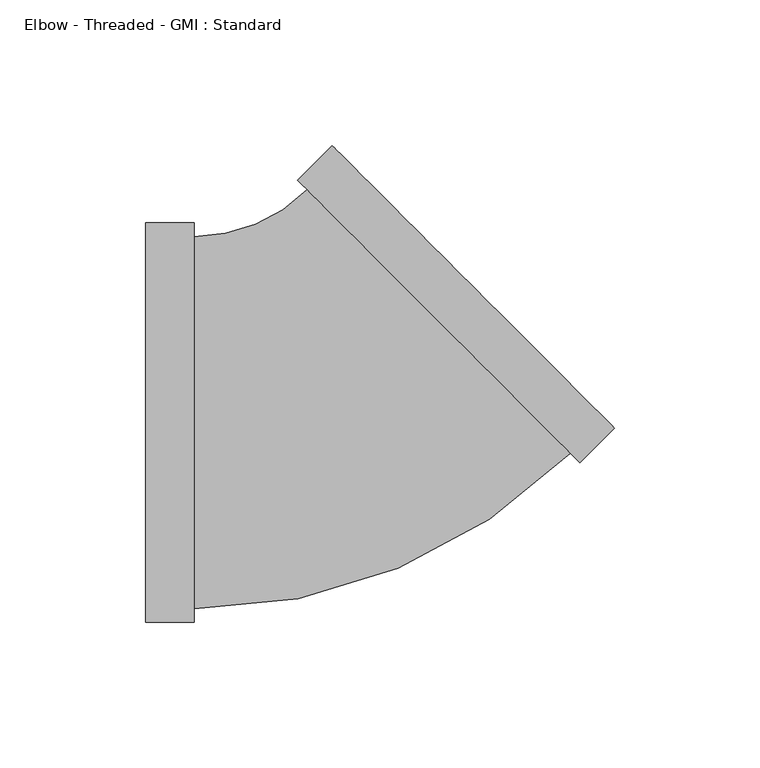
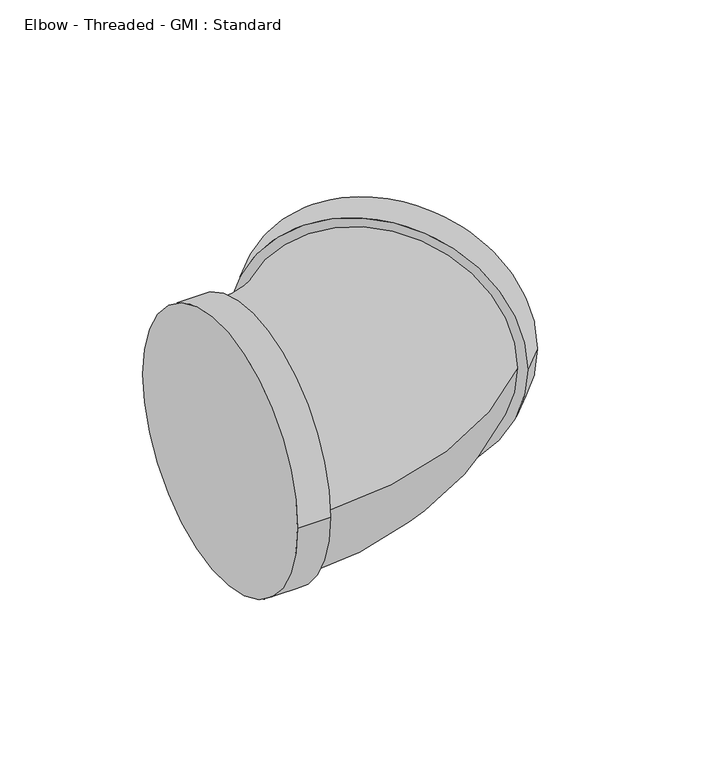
"""IFC4 building model written with IfcOpenShell, lengths in millimetres: pipe fitting geometry, Elbow - Threaded - GMI : Standard."""

from ifc_helpers import new_model, si_unit, point, frame, origin, place, context, project, spatial, circle_curve, ellipse_curve, trimmed, source, transform, mapped, element, save
from ifc_brep_helpers import plane_surface, cylinder_surface, revolved_surface, advanced_brep


def elbow_threaded_gmi_standard_a5338c12(model_context):
    return source(origin(), model_context, "Body", "AdvancedBrep", [
        advanced_brep(
        [(-66.0, -68.6, 0.0), (-66.0, 68.6, 0.0), (-49.2, -68.6, 0.0), (-49.2, 68.6, 0.0), (-49.2, -63.93, 0.0), (-49.2, 63.93, 0.0), (83.2971788, -13.7178716, 0.0), (-13.7178716, 83.2971788, 0.0), (-10.4156829, 79.9949902, 0.0), (79.9949902, -10.4156829, 0.0), (95.1765727, -1.8384776, 0.0), (-1.8384776, 95.1765727, 0.0)],
        [
            (0, 1, circle_curve(frame((-66.0, 0.0, 0.0), z_axis=(-1.0, 0.0, 0.0), x_axis=(0.0, 1.0, 0.0)), 68.6)),
            (1, 0, circle_curve(frame((-66.0, 0.0, 0.0), z_axis=(-1.0, 0.0, 0.0), x_axis=(0.0, 1.0, 0.0)), 68.6)),
            (2, 3, circle_curve(frame((-49.2, 0.0, 0.0), z_axis=(1.0, 0.0, 0.0), x_axis=(0.0, 1.0, 0.0)), 68.6)),
            (3, 2, circle_curve(frame((-49.2, 0.0, 0.0), z_axis=(1.0, 0.0, 0.0), x_axis=(0.0, 1.0, 0.0)), 68.6)),
            (4, 5, circle_curve(frame((-49.2, 0.0, 0.0), z_axis=(-1.0, 0.0, 0.0), x_axis=(0.0, 1.0, 0.0)), 63.93)),
            (5, 4, circle_curve(frame((-49.2, 0.0, 0.0), z_axis=(-1.0, 0.0, 0.0), x_axis=(0.0, 1.0, 0.0)), 63.93)),
            (0, 2),
            (3, 1),
            (6, 7, circle_curve(frame((34.7896536, 34.7896536, 0.0), z_axis=(-0.7071067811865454, -0.7071067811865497, 0.0), x_axis=(-0.7071067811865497, 0.7071067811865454, 0.0)), 68.6)),
            (7, 6, circle_curve(frame((34.7896536, 34.7896536, 0.0), z_axis=(-0.7071067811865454, -0.7071067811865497, 0.0), x_axis=(-0.7071067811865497, 0.7071067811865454, 0.0)), 68.6)),
            (8, 9, circle_curve(frame((34.7896536, 34.7896536, 0.0), z_axis=(0.7071067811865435, 0.7071067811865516, 0.0), x_axis=(-0.7071067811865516, 0.7071067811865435, 0.0)), 63.93)),
            (9, 8, circle_curve(frame((34.7896536, 34.7896536, 0.0), z_axis=(0.7071067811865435, 0.7071067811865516, 0.0), x_axis=(-0.7071067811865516, 0.7071067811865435, 0.0)), 63.93)),
            (10, 11, circle_curve(frame((46.6690476, 46.6690476, 0.0), z_axis=(0.7071067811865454, 0.7071067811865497, 0.0), x_axis=(-0.7071067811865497, 0.7071067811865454, 0.0)), 68.6)),
            (11, 10, circle_curve(frame((46.6690476, 46.6690476, 0.0), z_axis=(0.7071067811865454, 0.7071067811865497, 0.0), x_axis=(-0.7071067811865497, 0.7071067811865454, 0.0)), 68.6)),
            (6, 10),
            (11, 7),
            (8, 5, circle_curve(frame((-49.2, 118.7793073, 0.0), z_axis=(0.0, 0.0, -1.0), x_axis=(0.0, -1.0, 0.0)), 54.8493073)),
            (4, 9, circle_curve(frame((-49.2, 118.7793073, 0.0), z_axis=(0.0, 0.0, 1.0), x_axis=(0.0, -1.0, 0.0)), 182.7093073)),
        ],
        [
            plane_surface(frame((-66.0, 0.0, 0.0), z_axis=(-1.0, 0.0, 0.0), x_axis=(0.0, 0.0, 1.0))),
            plane_surface(frame((-49.2, 0.0, 0.0), z_axis=(1.0, 0.0, 0.0), x_axis=(0.0, 0.0, 1.0))),
            cylinder_surface(frame((-66.0, 0.0, 0.0), z_axis=(-1.0, 0.0, 0.0), x_axis=(0.0, 1.0, 0.0)), 68.6),
            plane_surface(frame((34.7896536, 34.7896536, 0.0), z_axis=(-0.7071067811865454, -0.7071067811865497, 0.0), x_axis=(0.0, 0.0, 1.0))),
            plane_surface(frame((46.6690476, 46.6690476, 0.0), z_axis=(0.7071067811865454, 0.7071067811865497, 0.0), x_axis=(0.0, 0.0, 1.0))),
            cylinder_surface(frame((34.7896536, 34.7896536, 0.0), z_axis=(-0.7071067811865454, -0.7071067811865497, 0.0), x_axis=(-0.7071067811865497, 0.7071067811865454, 0.0)), 68.6),
            revolved_surface(trimmed(ellipse_curve(frame((-49.2, 0.0, 0.0), z_axis=(-1.0, 0.0, 0.0), x_axis=(0.0, 1.0, 0.0)), 63.93, 63.93), [point((-49.2, -63.93, 0.0))], [point((-49.2, 63.93, 0.0))], True, "CARTESIAN"), (-49.2, 118.7793073, 0.0), (0.0, 0.0, 1.0)),
            revolved_surface(trimmed(ellipse_curve(frame((-49.2, 0.0, 0.0), z_axis=(-1.0, 0.0, 0.0), x_axis=(0.0, 1.0, 0.0)), 63.93, 63.93), [point((-49.2, 63.93, 0.0))], [point((-49.2, -63.93, 0.0))], True, "CARTESIAN"), (-49.2, 118.7793073, 0.0), (0.0, 0.0, 1.0)),
        ],
        [
            (0, [[1, 2]]),
            (1, [[3, 4], [5, 6]]),
            (2, [[-1, 7, -4, 8]]),
            (2, [[-2, -8, -3, -7]]),
            (3, [[9, 10], [11, 12]]),
            (4, [[13, 14]]),
            (5, [[-9, 15, -14, 16]]),
            (5, [[-10, -16, -13, -15]]),
            (6, [[17, -5, 18, -11]]),
            (7, [[-17, -12, -18, -6]]),
        ],
    ),
    ])


if __name__ == "__main__":
    model = new_model("IFC4")
    model_context = context("Model", 3, world=origin())
    ifc_project = project(units=[si_unit("LENGTHUNIT", "METRE", prefix="MILLI")], contexts=[model_context])
    site = spatial("IfcSite", under=ifc_project)
    building = spatial("IfcBuilding", under=site)
    placement = place(None, origin())
    elbow_threaded_gmi_standard_shape = elbow_threaded_gmi_standard_a5338c12(model_context)
    element("IfcPipeFitting", 1, ObjectType="Elbow - Threaded - GMI : Standard", at=placement, inside=building, context=model_context, shape_type="MappedRepresentation", body=[
        mapped(elbow_threaded_gmi_standard_shape, transform((0.0, 0.0, 0.0), x_axis=(1.0, 0.0, 0.0), y_axis=(0.0, 1.0, 0.0), z_axis=(0.0, 0.0, 1.0))),
    ])
    save(model, "model.ifc")
